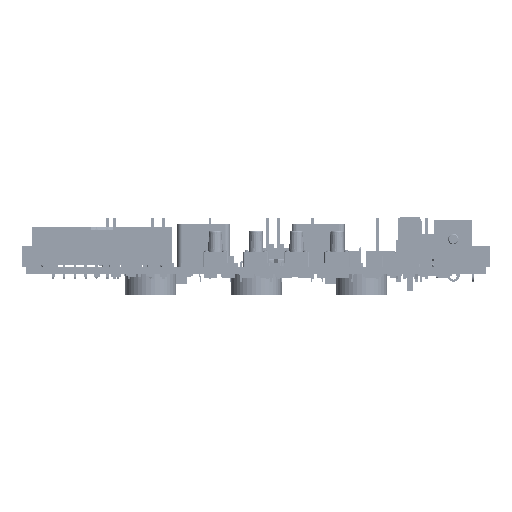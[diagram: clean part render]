
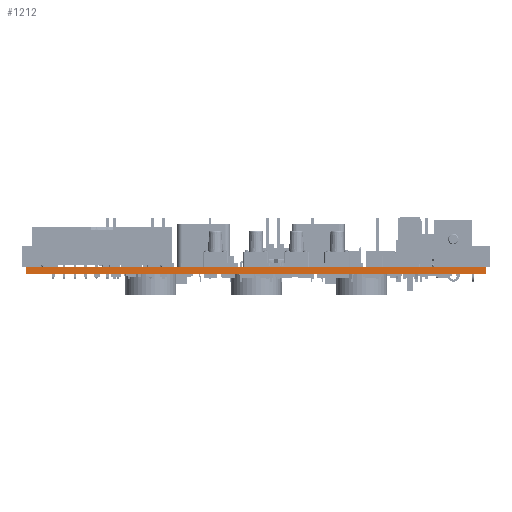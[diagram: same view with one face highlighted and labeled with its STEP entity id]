
A CAD part, left-side view. The second image highlights one B-rep face of the part: STEP entity #1212.
In plain terms, the highlighted planar face has unit normal (-1, 0, 0).
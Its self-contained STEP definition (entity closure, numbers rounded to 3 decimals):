
#1043 = PLANE('',#1044);
#1044 = AXIS2_PLACEMENT_3D('',#1045,#1046,#1047);
#1045 = CARTESIAN_POINT('',(0.,0.,0.));
#1046 = DIRECTION('',(0.,1.,0.));
#1047 = DIRECTION('',(1.,0.,0.));
#1071 = PLANE('',#1072);
#1072 = AXIS2_PLACEMENT_3D('',#1073,#1074,#1075);
#1073 = CARTESIAN_POINT('',(177.8,0.,1.596));
#1074 = DIRECTION('',(0.,0.,-1.));
#1075 = DIRECTION('',(-1.,0.,0.));
#1099 = PLANE('',#1100);
#1100 = AXIS2_PLACEMENT_3D('',#1101,#1102,#1103);
#1101 = CARTESIAN_POINT('',(177.8,107.95,0.));
#1102 = DIRECTION('',(0.,-1.,0.));
#1103 = DIRECTION('',(-1.,0.,0.));
#1125 = PLANE('',#1126);
#1126 = AXIS2_PLACEMENT_3D('',#1127,#1128,#1129);
#1127 = CARTESIAN_POINT('',(177.8,0.,0.));
#1128 = DIRECTION('',(0.,0.,-1.));
#1129 = DIRECTION('',(-1.,0.,0.));
#1142 = VERTEX_POINT('',#1143);
#1143 = CARTESIAN_POINT('',(0.,107.95,1.596));
#1164 = EDGE_CURVE('',#1165,#1142,#1167,.T.);
#1165 = VERTEX_POINT('',#1166);
#1166 = CARTESIAN_POINT('',(0.,107.95,0.));
#1167 = SURFACE_CURVE('',#1168,(#1172,#1179),.PCURVE_S1.);
#1168 = LINE('',#1169,#1170);
#1169 = CARTESIAN_POINT('',(0.,107.95,0.));
#1170 = VECTOR('',#1171,1.);
#1171 = DIRECTION('',(0.,0.,1.));
#1172 = PCURVE('',#1099,#1173);
#1173 = DEFINITIONAL_REPRESENTATION('',(#1174),#1178);
#1174 = LINE('',#1175,#1176);
#1175 = CARTESIAN_POINT('',(177.8,0.));
#1176 = VECTOR('',#1177,1.);
#1177 = DIRECTION('',(0.,-1.));
#1178 = ( GEOMETRIC_REPRESENTATION_CONTEXT(2) 
PARAMETRIC_REPRESENTATION_CONTEXT() REPRESENTATION_CONTEXT('2D SPACE',''
  ) );
#1179 = PCURVE('',#1180,#1185);
#1180 = PLANE('',#1181);
#1181 = AXIS2_PLACEMENT_3D('',#1182,#1183,#1184);
#1182 = CARTESIAN_POINT('',(0.,107.95,0.));
#1183 = DIRECTION('',(1.,0.,0.));
#1184 = DIRECTION('',(0.,-1.,0.));
#1185 = DEFINITIONAL_REPRESENTATION('',(#1186),#1190);
#1186 = LINE('',#1187,#1188);
#1187 = CARTESIAN_POINT('',(0.,0.));
#1188 = VECTOR('',#1189,1.);
#1189 = DIRECTION('',(0.,-1.));
#1190 = ( GEOMETRIC_REPRESENTATION_CONTEXT(2) 
PARAMETRIC_REPRESENTATION_CONTEXT() REPRESENTATION_CONTEXT('2D SPACE',''
  ) );
#1212 = ADVANCED_FACE('',(#1213),#1180,.F.);
#1213 = FACE_BOUND('',#1214,.F.);
#1214 = EDGE_LOOP('',(#1215,#1216,#1239,#1262));
#1215 = ORIENTED_EDGE('',*,*,#1164,.T.);
#1216 = ORIENTED_EDGE('',*,*,#1217,.T.);
#1217 = EDGE_CURVE('',#1142,#1218,#1220,.T.);
#1218 = VERTEX_POINT('',#1219);
#1219 = CARTESIAN_POINT('',(0.,0.,1.596));
#1220 = SURFACE_CURVE('',#1221,(#1225,#1232),.PCURVE_S1.);
#1221 = LINE('',#1222,#1223);
#1222 = CARTESIAN_POINT('',(0.,107.95,1.596));
#1223 = VECTOR('',#1224,1.);
#1224 = DIRECTION('',(0.,-1.,0.));
#1225 = PCURVE('',#1180,#1226);
#1226 = DEFINITIONAL_REPRESENTATION('',(#1227),#1231);
#1227 = LINE('',#1228,#1229);
#1228 = CARTESIAN_POINT('',(0.,-1.596));
#1229 = VECTOR('',#1230,1.);
#1230 = DIRECTION('',(1.,0.));
#1231 = ( GEOMETRIC_REPRESENTATION_CONTEXT(2) 
PARAMETRIC_REPRESENTATION_CONTEXT() REPRESENTATION_CONTEXT('2D SPACE',''
  ) );
#1232 = PCURVE('',#1071,#1233);
#1233 = DEFINITIONAL_REPRESENTATION('',(#1234),#1238);
#1234 = LINE('',#1235,#1236);
#1235 = CARTESIAN_POINT('',(177.8,107.95));
#1236 = VECTOR('',#1237,1.);
#1237 = DIRECTION('',(0.,-1.));
#1238 = ( GEOMETRIC_REPRESENTATION_CONTEXT(2) 
PARAMETRIC_REPRESENTATION_CONTEXT() REPRESENTATION_CONTEXT('2D SPACE',''
  ) );
#1239 = ORIENTED_EDGE('',*,*,#1240,.F.);
#1240 = EDGE_CURVE('',#1241,#1218,#1243,.T.);
#1241 = VERTEX_POINT('',#1242);
#1242 = CARTESIAN_POINT('',(0.,0.,0.));
#1243 = SURFACE_CURVE('',#1244,(#1248,#1255),.PCURVE_S1.);
#1244 = LINE('',#1245,#1246);
#1245 = CARTESIAN_POINT('',(0.,0.,0.));
#1246 = VECTOR('',#1247,1.);
#1247 = DIRECTION('',(0.,0.,1.));
#1248 = PCURVE('',#1180,#1249);
#1249 = DEFINITIONAL_REPRESENTATION('',(#1250),#1254);
#1250 = LINE('',#1251,#1252);
#1251 = CARTESIAN_POINT('',(107.95,0.));
#1252 = VECTOR('',#1253,1.);
#1253 = DIRECTION('',(0.,-1.));
#1254 = ( GEOMETRIC_REPRESENTATION_CONTEXT(2) 
PARAMETRIC_REPRESENTATION_CONTEXT() REPRESENTATION_CONTEXT('2D SPACE',''
  ) );
#1255 = PCURVE('',#1043,#1256);
#1256 = DEFINITIONAL_REPRESENTATION('',(#1257),#1261);
#1257 = LINE('',#1258,#1259);
#1258 = CARTESIAN_POINT('',(0.,0.));
#1259 = VECTOR('',#1260,1.);
#1260 = DIRECTION('',(0.,-1.));
#1261 = ( GEOMETRIC_REPRESENTATION_CONTEXT(2) 
PARAMETRIC_REPRESENTATION_CONTEXT() REPRESENTATION_CONTEXT('2D SPACE',''
  ) );
#1262 = ORIENTED_EDGE('',*,*,#1263,.F.);
#1263 = EDGE_CURVE('',#1165,#1241,#1264,.T.);
#1264 = SURFACE_CURVE('',#1265,(#1269,#1276),.PCURVE_S1.);
#1265 = LINE('',#1266,#1267);
#1266 = CARTESIAN_POINT('',(0.,107.95,0.));
#1267 = VECTOR('',#1268,1.);
#1268 = DIRECTION('',(0.,-1.,0.));
#1269 = PCURVE('',#1180,#1270);
#1270 = DEFINITIONAL_REPRESENTATION('',(#1271),#1275);
#1271 = LINE('',#1272,#1273);
#1272 = CARTESIAN_POINT('',(0.,0.));
#1273 = VECTOR('',#1274,1.);
#1274 = DIRECTION('',(1.,0.));
#1275 = ( GEOMETRIC_REPRESENTATION_CONTEXT(2) 
PARAMETRIC_REPRESENTATION_CONTEXT() REPRESENTATION_CONTEXT('2D SPACE',''
  ) );
#1276 = PCURVE('',#1125,#1277);
#1277 = DEFINITIONAL_REPRESENTATION('',(#1278),#1282);
#1278 = LINE('',#1279,#1280);
#1279 = CARTESIAN_POINT('',(177.8,107.95));
#1280 = VECTOR('',#1281,1.);
#1281 = DIRECTION('',(0.,-1.));
#1282 = ( GEOMETRIC_REPRESENTATION_CONTEXT(2) 
PARAMETRIC_REPRESENTATION_CONTEXT() REPRESENTATION_CONTEXT('2D SPACE',''
  ) );
